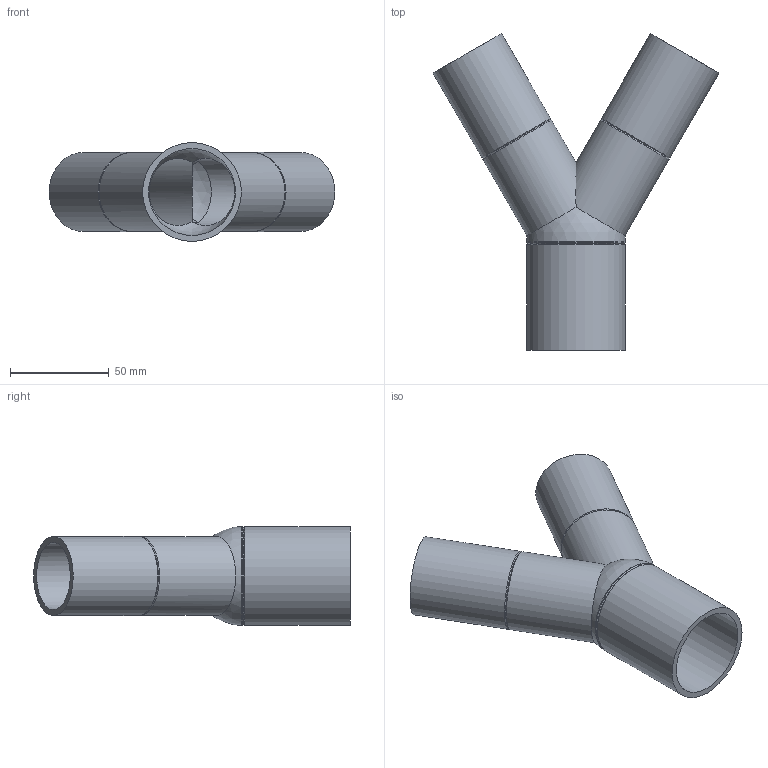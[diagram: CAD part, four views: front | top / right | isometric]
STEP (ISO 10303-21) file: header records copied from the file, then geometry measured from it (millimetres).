
FILE_DESCRIPTION(/* description */ (''),/* implementation_level */ '2;1');
FILE_NAME(/* name */ 'Z:\Geberit\Export\NewStep\361459.stp',/* time_stamp */ '2014-04-01T21:05:17+02:00',/* author */ ('nelson'),/* organization */ (''),/* preprocessor_version */ 'ST-DEVELOPER v15.2',/* originating_system */ 'Autodesk Inventor 2014',/* authorisation */ '');
FILE_SCHEMA (('AUTOMOTIVE_DESIGN { 1 0 10303 214 3 1 1 }'));
Length unit declared in the file: millimetre
Products named in the file (1): 361459
Bounding box: 144.64 x 160.26 x 50 mm (x, y, z)
Volume: 93107.4 mm3; surface area: 63236.6 mm2
Topology: 1 solids, 1 shells, 24 faces, 58 edges, 35 vertices
Faces by surface type: cylinder 11, cone 6, plane 4, sphere 3
Full cylindrical faces by diameter (mm): 34 x2, 40 x4, 44 x1, 50 x2
Entity records: 588 total; most frequent: DIRECTION 106, CARTESIAN_POINT 104, ORIENTED_EDGE 60, AXIS2_PLACEMENT_3D 53, EDGE_LOOP 43, EDGE_CURVE 30, CIRCLE 25, VERTEX_POINT 25
